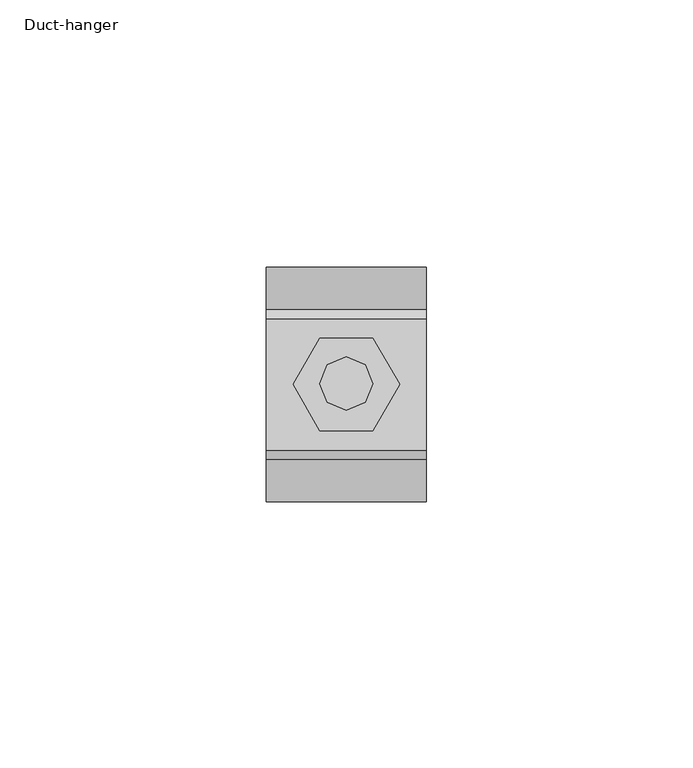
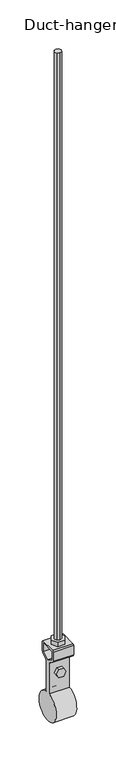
"""IFC4 building model written with IfcOpenShell, lengths in millimetres: proxy geometry, Duct-hanger : Φ44."""

from ifc_helpers import new_model, si_unit, point, frame, frame_2d, origin, place, context, project, spatial, polyline, circle_curve, trimmed, segment, composite_curve, outline, extrude, source, transform, mapped, element, save


def duct_hanger_2cfdf465(model_context):
    return source(origin(), model_context, "Body", "SweptSolid", [
        extrude(outline(polyline([(3.5351563, 3.5351563), (5.0003052, 0.0), (3.5351563, -3.5351563), (0.0, -5.0), (-3.5354614, -3.5351563), (-5.0, 0.0), (-3.5354614, 3.5351563), (0.0, 5.0), (3.5351563, 3.5351563)])), frame((0.0, 0.0, -922.5812294), z_axis=(0.0, 0.0, 1.0), x_axis=(1.0, 0.0, 0.0)), (0.0, 0.0, 1.0), 922.5812294),
        extrude(outline(polyline([(5.0, 8.659668), (10.0, 0.0), (5.0, -8.659668), (-5.0, -8.659668), (-10.0, 0.0), (-5.0, 8.659668), (5.0, 8.659668)])), frame((0.0, 0.0, -922.5812294), z_axis=(0.0, 0.0, 1.0), x_axis=(1.0, 0.0, 0.0)), (0.0, 0.0, 1.0), 6.6101074),
        extrude(outline(polyline([(-959.5965591, -3.5931396), (-965.8200088, -7.1862793), (-972.0434585, -3.5931396), (-972.0434585, 3.5931396), (-965.8200088, 7.1862793), (-959.5965591, 3.5931396), (-959.5965591, -3.5931396)])), frame((0.0, -8.2446289, 0.0), z_axis=(0.0, 1.0, 0.0), x_axis=(0.0, 0.0, 1.0)), (0.0, 0.0, 1.0), 16.4892578),
        extrude(outline(composite_curve([segment(polyline([(14.0234375, -924.2499305), (14.0234375, -938.8995887), (12.8845215, -940.965934), (4.6337891, -946.1737587), (3.494873, -948.2407142), (3.494873, -995.8200088)]), True, "CONTINUOUS"), segment(trimmed(circle_curve(frame_2d((0.0, -1017.540641)), 22.0), [point((3.494873, -995.8200088))], [point((-3.494873, -995.8200088))], False, "CARTESIAN"), True, "CONTINUOUS"), segment(polyline([(-3.494873, -995.8200088), (-3.494873, -948.2407142), (-4.6337891, -946.1737587), (-12.8845215, -940.965934), (-14.0234375, -938.8995887), (-14.0234375, -924.2499305), (-12.3547363, -922.5812294), (12.3547363, -922.5812294), (14.0234375, -924.2499305)]), True, "CONTINUOUS")], self_intersect=False), holes=[polyline([(0.0, -944.8476057), (10.7531738, -938.0609657), (10.7531738, -925.8347084), (-10.7531738, -925.8347084), (-10.7531738, -938.0609657), (0.0, -944.8476057)])]), frame((-15.0, 0.0, 0.0), z_axis=(1.0, 0.0, 0.0), x_axis=(0.0, 1.0, 0.0)), (0.0, 0.0, 1.0), 30.0),
    ])


if __name__ == "__main__":
    model = new_model("IFC4")
    model_context = context("Model", 3, world=origin())
    ifc_project = project(units=[si_unit("LENGTHUNIT", "METRE", prefix="MILLI")], contexts=[model_context])
    site = spatial("IfcSite", under=ifc_project)
    building = spatial("IfcBuilding", under=site)
    placement = place(None, origin())
    duct_hanger_shape = duct_hanger_2cfdf465(model_context)
    element("IfcBuildingElementProxy", 1, Name="Duct-hanger : Φ44", ObjectType="Duct-hanger : Φ44", at=placement, inside=building, context=model_context, shape_type="MappedRepresentation", body=[
        mapped(duct_hanger_shape, transform((0.0, 0.0, 0.0), x_axis=(1.0, 0.0, 0.0), y_axis=(0.0, 1.0, 0.0), z_axis=(0.0, 0.0, 1.0))),
    ])
    save(model, "model.ifc")
